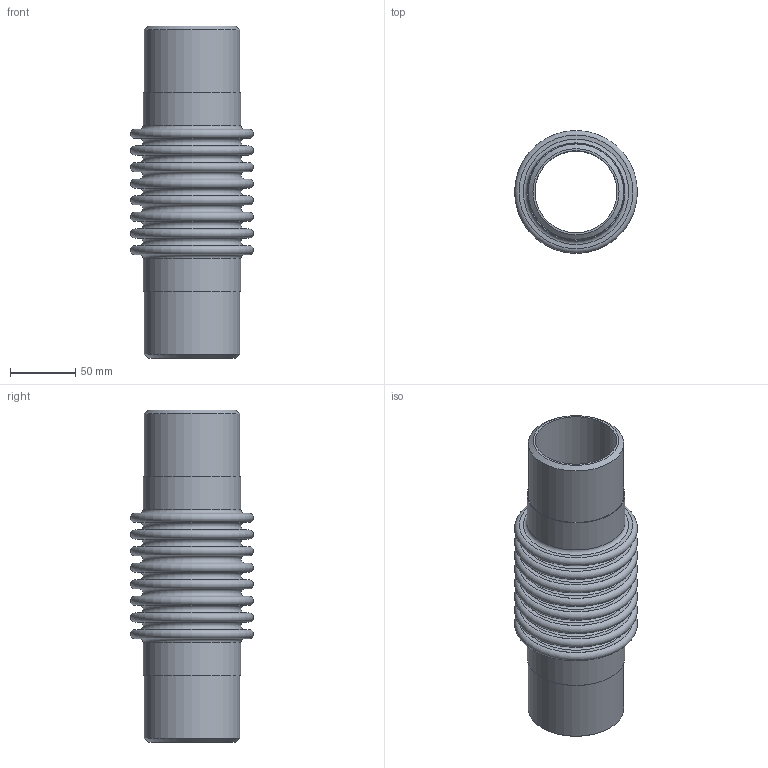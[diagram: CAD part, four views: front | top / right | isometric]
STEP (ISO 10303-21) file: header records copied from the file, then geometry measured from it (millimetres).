
FILE_DESCRIPTION(/* description */ ('EXPANSION JOINT,SINGLE, WELD ENDS,4 INCH NOMINAL'),/* implementation_level */ '2;1');
FILE_NAME(/* name */ 'US-2.5-300S- WELD-ENDS.stp',/* time_stamp */ '2026-07-28T10:25:27-05:00',/* author */ ('jorgef'),/* organization */ (''),/* preprocessor_version */ 'ST-DEVELOPER v20.1',/* originating_system */ 'Autodesk Inventor 2026',/* authorisation */ '');
FILE_SCHEMA (('AUTOMOTIVE_DESIGN { 1 0 10303 214 3 1 1 }'));
Length unit declared in the file: inch
Products named in the file (3): SINGLE STOCK  BELLOW WELDED ENDS  2.5 -300 PSIG; STOCK BELLOW - US-2.5-8- 300S; PIPE- 2.5 - 300 PSIG
Assembly tree (3 placements, depth 2):
  SINGLE STOCK  BELLOW WELDED ENDS  2.5 -300 PSIG
    STOCK BELLOW - US-2.5-8- 300S
    PIPE- 2.5 - 300 PSIG  x2
Bounding box: 93.98 x 93.98 x 254 mm (x, y, z)
Volume: 206441.5 mm3; surface area: 204113.1 mm2
Topology: 5 solids, 5 shells, 86 faces, 132 edges, 89 vertices
Faces by surface type: plane 42, torus 34, cylinder 8, cone 2
Full cylindrical faces by diameter (mm): 62.713 x2, 73.025 x2, 73.66 x2, 74.879 x2
Entity records: 2033 total; most frequent: DIRECTION 413, CARTESIAN_POINT 293, ORIENTED_EDGE 246, AXIS2_PLACEMENT_3D 203, EDGE_CURVE 123, EDGE_LOOP 121, CIRCLE 116, VERTEX_POINT 82
